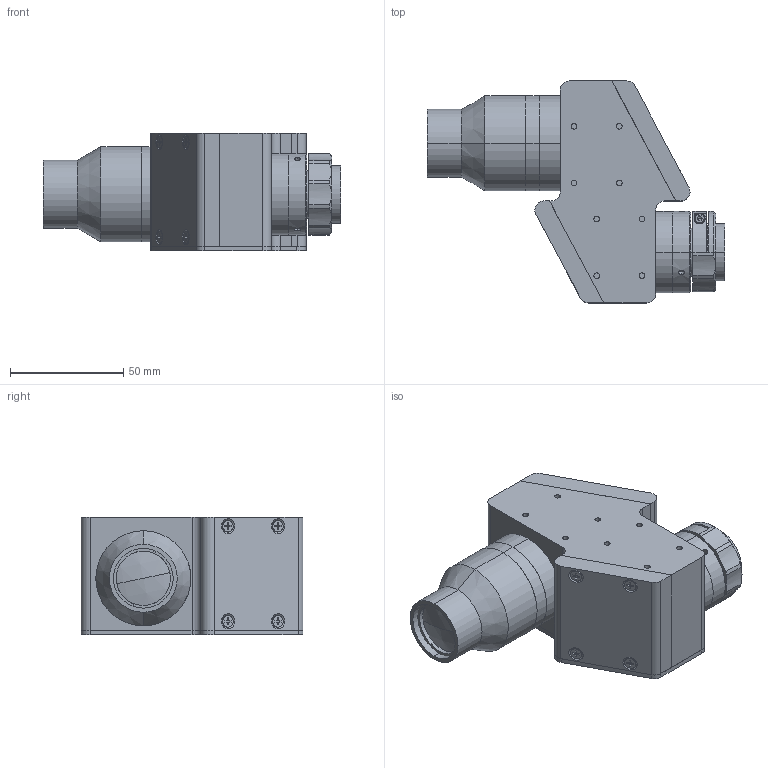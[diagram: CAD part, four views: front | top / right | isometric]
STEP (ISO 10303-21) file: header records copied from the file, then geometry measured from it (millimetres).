
FILE_DESCRIPTION (( 'STEP AP203' ), '1' );
FILE_NAME ('XF-MH075X223.STEP', '2020-08-24T07:13:29', ( 'canrill-02' ), ( '' ), 'SwSTEP 2.0', 'SolidWorks 2014', '' );
FILE_SCHEMA (( 'CONFIG_CONTROL_DESIGN' ));
Length unit declared in the file: millimetre
Products named in the file (1): XF-MH075X223
Bounding box: 131.26 x 98 x 52 mm (x, y, z)
Surface area: 41549.5 mm2 (no closed solid volume)
Topology: 0 solids, 31 shells, 419 faces, 1307 edges, 897 vertices
Faces by surface type: plane 217, cylinder 155, cone 43, sphere 2, torus 2
Entity records: 14845 total; most frequent: CARTESIAN_POINT 2943, DIRECTION 2577, ORIENTED_EDGE 2195, EDGE_CURVE 1305, VERTEX_POINT 897, AXIS2_PLACEMENT_3D 875, LINE 827, VECTOR 827
